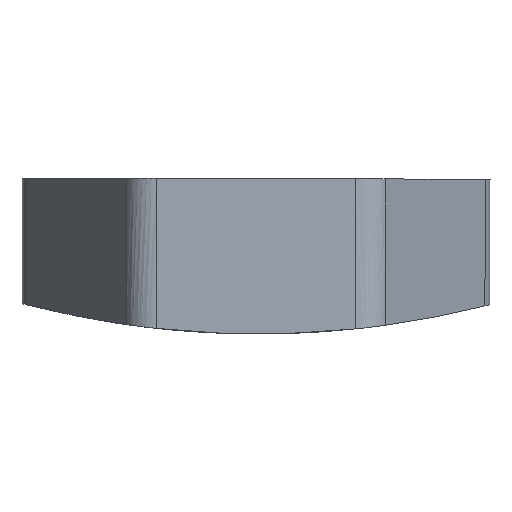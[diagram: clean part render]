
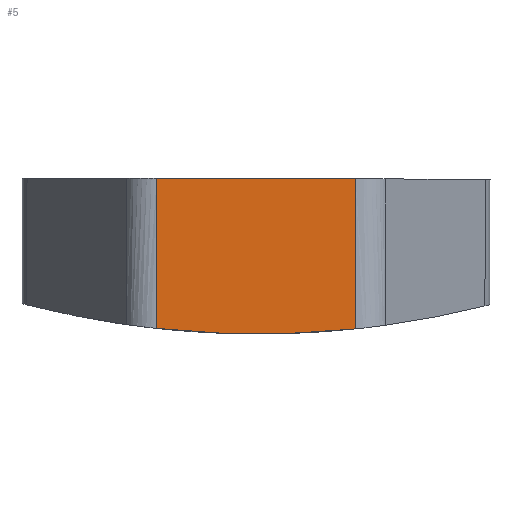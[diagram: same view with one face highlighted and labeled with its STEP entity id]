
A CAD part, left-side view. The second image highlights one B-rep face of the part: STEP entity #5.
In plain terms, the highlighted planar face has unit normal (-1, 0, 0).
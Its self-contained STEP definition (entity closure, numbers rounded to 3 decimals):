
#5 = ADVANCED_FACE ( 'NONE', ( #1633 ), #1902, .F. ) ;
#102 = VECTOR ( 'NONE', #557, 1000. ) ;
#118 = CARTESIAN_POINT ( 'NONE',  ( -7.763, 35.427, -5.344 ) ) ;
#124 = CIRCLE ( 'NONE', #1426, 35. ) ;
#189 = VECTOR ( 'NONE', #1447, 1000. ) ;
#204 = ORIENTED_EDGE ( 'NONE', *, *, #1428, .F. ) ;
#237 = CARTESIAN_POINT ( 'NONE',  ( -7.763, 27.985, -10.984 ) ) ;
#373 = DIRECTION ( 'NONE',  ( 0., -0.225, 0.974 ) ) ;
#557 = DIRECTION ( 'NONE',  ( 0., -1., -0.002 ) ) ;
#623 = EDGE_CURVE ( 'NONE', #1719, #1034, #1206, .T. ) ;
#843 = EDGE_LOOP ( 'NONE', ( #1517, #908, #204, #1561 ) ) ;
#855 = DIRECTION ( 'NONE',  ( 1., 0., 0. ) ) ;
#908 = ORIENTED_EDGE ( 'NONE', *, *, #1245, .T. ) ;
#943 = LINE ( 'NONE', #118, #102 ) ;
#984 = AXIS2_PLACEMENT_3D ( 'NONE', #1465, #855, #373 ) ;
#994 = DIRECTION ( 'NONE',  ( 0., -0.002, 1. ) ) ;
#1034 = VERTEX_POINT ( 'NONE', #1383 ) ;
#1177 = CARTESIAN_POINT ( 'NONE',  ( -7.763, 35.437, -10.965 ) ) ;
#1206 = LINE ( 'NONE', #1177, #1584 ) ;
#1245 = EDGE_CURVE ( 'NONE', #1272, #1810, #1894, .T. ) ;
#1251 = CARTESIAN_POINT ( 'NONE',  ( -7.763, 27.985, -10.984 ) ) ;
#1272 = VERTEX_POINT ( 'NONE', #237 ) ;
#1383 = CARTESIAN_POINT ( 'NONE',  ( -7.763, 35.423, -5.344 ) ) ;
#1426 = AXIS2_PLACEMENT_3D ( 'NONE', #1820, #1824, #1576 ) ;
#1428 = EDGE_CURVE ( 'NONE', #1034, #1810, #943, .T. ) ;
#1432 = CARTESIAN_POINT ( 'NONE',  ( -7.763, 27.971, -5.362 ) ) ;
#1447 = DIRECTION ( 'NONE',  ( 0., -0.002, 1. ) ) ;
#1465 = CARTESIAN_POINT ( 'NONE',  ( -7.763, 35.464, -20.399 ) ) ;
#1517 = ORIENTED_EDGE ( 'NONE', *, *, #1728, .T. ) ;
#1561 = ORIENTED_EDGE ( 'NONE', *, *, #623, .F. ) ;
#1572 = CARTESIAN_POINT ( 'NONE',  ( -7.763, 35.437, -10.965 ) ) ;
#1576 = DIRECTION ( 'NONE',  ( 0., 0.225, -0.974 ) ) ;
#1584 = VECTOR ( 'NONE', #994, 1000. ) ;
#1633 = FACE_OUTER_BOUND ( 'NONE', #843, .T. ) ;
#1719 = VERTEX_POINT ( 'NONE', #1572 ) ;
#1728 = EDGE_CURVE ( 'NONE', #1719, #1272, #124, .T. ) ;
#1810 = VERTEX_POINT ( 'NONE', #1432 ) ;
#1820 = CARTESIAN_POINT ( 'NONE',  ( -7.763, 31.623, 23.826 ) ) ;
#1824 = DIRECTION ( 'NONE',  ( -1., 0., 0. ) ) ;
#1894 = LINE ( 'NONE', #1251, #189 ) ;
#1902 = PLANE ( 'NONE',  #984 ) ;
